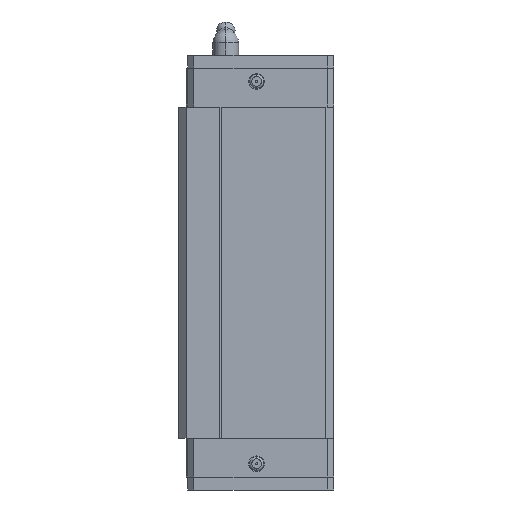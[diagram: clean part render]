
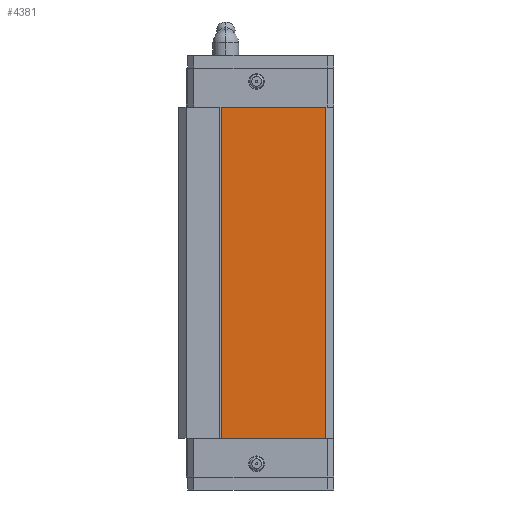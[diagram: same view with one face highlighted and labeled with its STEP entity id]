
A CAD part, left-side view. The second image highlights one B-rep face of the part: STEP entity #4381.
In plain terms, the highlighted planar face has unit normal (-1, 0, 0).
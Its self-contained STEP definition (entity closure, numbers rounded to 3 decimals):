
#251 = EDGE_CURVE ( 'NONE', #7906, #4896, #13866, .T. ) ;
#1120 = PLANE ( 'NONE',  #10650 ) ;
#1213 = CARTESIAN_POINT ( 'NONE',  ( -42.336, 43.836, -64.4 ) ) ;
#1221 = CARTESIAN_POINT ( 'NONE',  ( -42.336, 43.836, 64.4 ) ) ;
#1716 = DIRECTION ( 'NONE',  ( 0., 0., -1. ) ) ;
#1837 = VECTOR ( 'NONE', #1716, 1000. ) ;
#2178 = EDGE_CURVE ( 'NONE', #4896, #7174, #2189, .T. ) ;
#2189 = LINE ( 'NONE', #13718, #1837 ) ;
#2193 = ORIENTED_EDGE ( 'NONE', *, *, #2178, .F. ) ;
#2239 = DIRECTION ( 'NONE',  ( 0., 1., 0. ) ) ;
#2980 = VECTOR ( 'NONE', #6691, 1000. ) ;
#3608 = EDGE_CURVE ( 'NONE', #7906, #6485, #5919, .T. ) ;
#3976 = LINE ( 'NONE', #1213, #12710 ) ;
#4256 = CARTESIAN_POINT ( 'NONE',  ( -42.336, 43.836, -64.4 ) ) ;
#4381 = ADVANCED_FACE ( 'NONE', ( #13942 ), #1120, .F. ) ;
#4896 = VERTEX_POINT ( 'NONE', #4954 ) ;
#4954 = CARTESIAN_POINT ( 'NONE',  ( -42.336, 3.025, 64.4 ) ) ;
#5531 = DIRECTION ( 'NONE',  ( 0., -1., 0. ) ) ;
#5876 = CARTESIAN_POINT ( 'NONE',  ( -42.336, 3.025, -64.4 ) ) ;
#5919 = LINE ( 'NONE', #13238, #2980 ) ;
#6485 = VERTEX_POINT ( 'NONE', #4256 ) ;
#6691 = DIRECTION ( 'NONE',  ( 0., 0., -1. ) ) ;
#6866 = EDGE_LOOP ( 'NONE', ( #13030, #7380, #2193, #8084 ) ) ;
#7174 = VERTEX_POINT ( 'NONE', #5876 ) ;
#7380 = ORIENTED_EDGE ( 'NONE', *, *, #11980, .T. ) ;
#7906 = VERTEX_POINT ( 'NONE', #1221 ) ;
#8084 = ORIENTED_EDGE ( 'NONE', *, *, #251, .F. ) ;
#8789 = DIRECTION ( 'NONE',  ( 1., 0., 0. ) ) ;
#9960 = DIRECTION ( 'NONE',  ( 0., -1., 0. ) ) ;
#10650 = AXIS2_PLACEMENT_3D ( 'NONE', #12048, #8789, #2239 ) ;
#11877 = CARTESIAN_POINT ( 'NONE',  ( -42.336, 43.836, 64.4 ) ) ;
#11980 = EDGE_CURVE ( 'NONE', #6485, #7174, #3976, .T. ) ;
#12048 = CARTESIAN_POINT ( 'NONE',  ( -42.336, 43.836, 64.4 ) ) ;
#12710 = VECTOR ( 'NONE', #9960, 1000. ) ;
#13030 = ORIENTED_EDGE ( 'NONE', *, *, #3608, .T. ) ;
#13238 = CARTESIAN_POINT ( 'NONE',  ( -42.336, 43.836, 64.4 ) ) ;
#13521 = VECTOR ( 'NONE', #5531, 1000. ) ;
#13718 = CARTESIAN_POINT ( 'NONE',  ( -42.336, 3.025, 64.4 ) ) ;
#13866 = LINE ( 'NONE', #11877, #13521 ) ;
#13942 = FACE_OUTER_BOUND ( 'NONE', #6866, .T. ) ;
